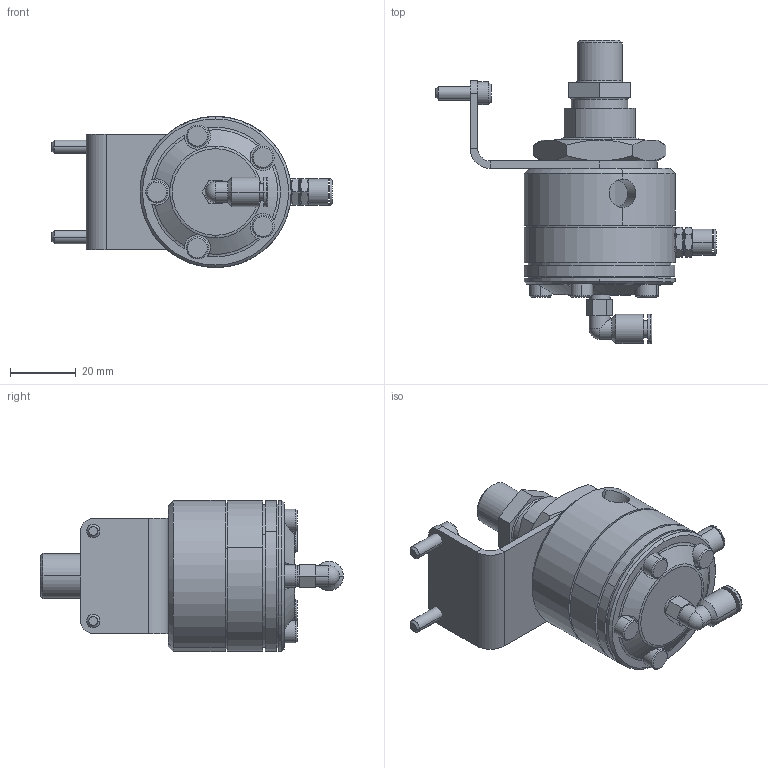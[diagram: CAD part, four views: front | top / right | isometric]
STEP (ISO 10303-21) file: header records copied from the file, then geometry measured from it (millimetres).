
FILE_DESCRIPTION((''),'2;1');
FILE_NAME('24C375-EN-G_PRT','2019-12-31T17:11:21',('qusrh3'),(''),'CREO PARAMETRIC BY PTC INC, 2019030','CREO PARAMETRIC BY PTC INC, 2019030','');
FILE_SCHEMA(('CONFIG_CONTROL_DESIGN'));
Length unit declared in the file: inch
Products named in the file (1): 24C375-EN-G_PRT
Bounding box: 85.22 x 92.19 x 45.97 mm (x, y, z)
Surface area: 33574.6 mm2 (no closed solid volume)
Topology: 0 solids, 34 shells, 215 faces, 479 edges, 295 vertices
Faces by surface type: plane 76, cylinder 70, cone 53, torus 15, sphere 1
Entity records: 6332 total; most frequent: CARTESIAN_POINT 1625, DIRECTION 1047, ORIENTED_EDGE 872, EDGE_CURVE 478, AXIS2_PLACEMENT_3D 433, VERTEX_POINT 295, CIRCLE 218, EDGE_LOOP 215
